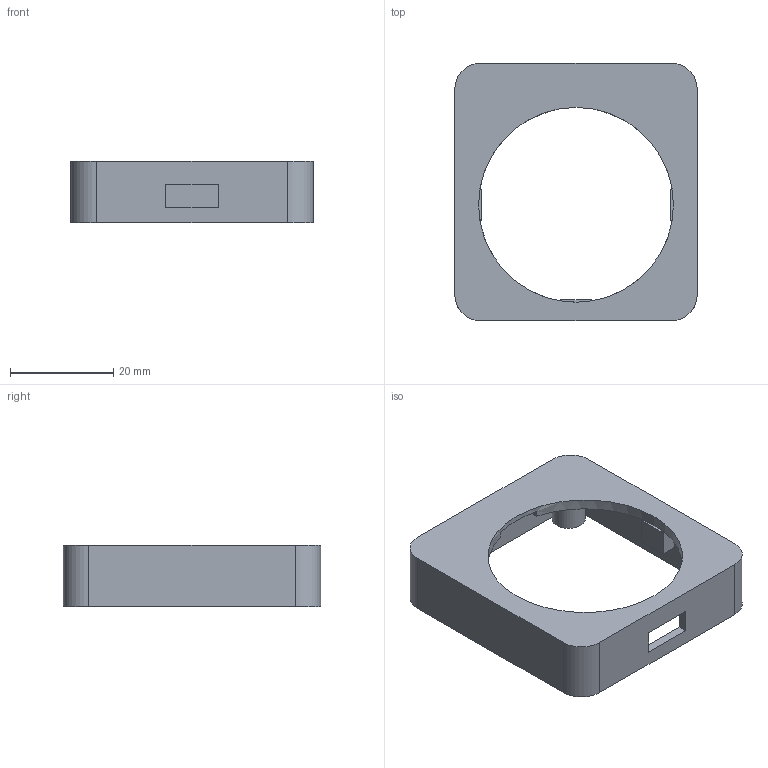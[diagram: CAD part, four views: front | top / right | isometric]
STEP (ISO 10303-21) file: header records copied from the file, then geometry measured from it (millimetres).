
FILE_DESCRIPTION(('Open CASCADE Model'),'2;1');
FILE_NAME('Open CASCADE Shape Model','2026-08-12T19:08:56',('Author'),( 'Open CASCADE'),'Open CASCADE STEP processor 7.9','Open CASCADE 7.9' ,'Unknown');
FILE_SCHEMA(('AUTOMOTIVE_DESIGN { 1 0 10303 214 1 1 1 1 }'));
Length unit declared in the file: millimetre
Products named in the file (1): Open CASCADE STEP translator 7.9 1
Bounding box: 47 x 50 x 11.9 mm (x, y, z)
Volume: 6777.7 mm3; surface area: 7513.1 mm2
Topology: 1 solids, 1 shells, 62 faces, 171 edges, 114 vertices
Faces by surface type: plane 44, cylinder 18
Full cylindrical faces by diameter (mm): 3.2 x4, 37.8 x1
Entity records: 4190 total; most frequent: CARTESIAN_POINT 940, DIRECTION 557, ORIENTED_EDGE 342, PCURVE 342, DEFINITIONAL_REPRESENTATION 342, LINE 311, VECTOR 311, EDGE_CURVE 171
